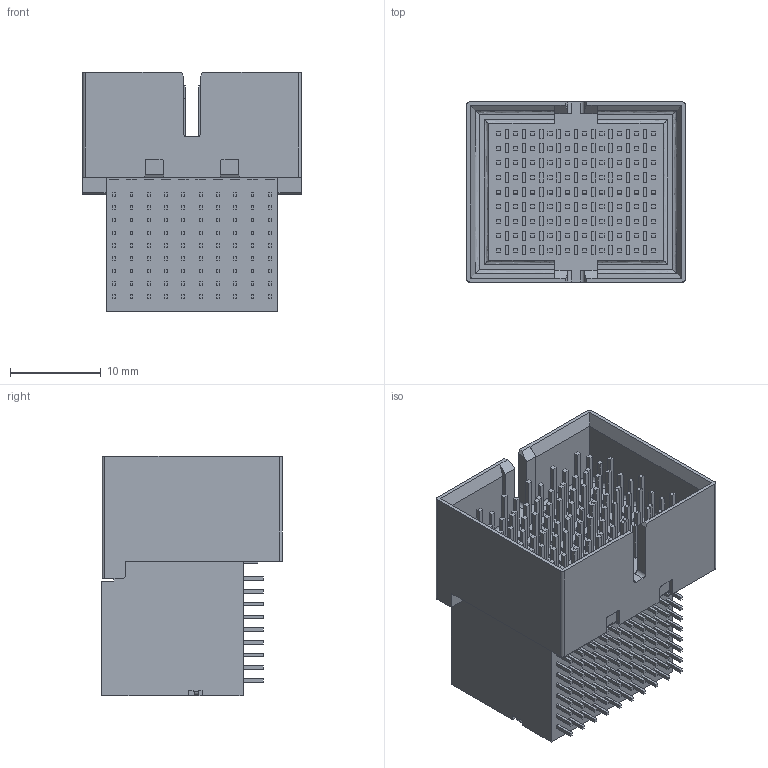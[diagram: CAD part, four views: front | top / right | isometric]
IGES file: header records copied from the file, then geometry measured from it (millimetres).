
Start section:  PTC IGES file: c-2102155-1-b-3d.igs
Global section: file name: c-2102155-1-b-3d.igs; native system: Creo Parametric by Parametric Technology Corporation; preprocessor: 2014090; author: workeradm; organization: Unknown; units: millimetre
Bounding box: 24 x 19.83 x 26.3 mm (x, y, z)
Surface area: 5087.2 mm2 (no closed solid volume)
Topology: 0 solids, 0 shells, 1620 faces, 8054 edges, 8054 vertices
Faces by surface type: bspline 1542, revolution 78
